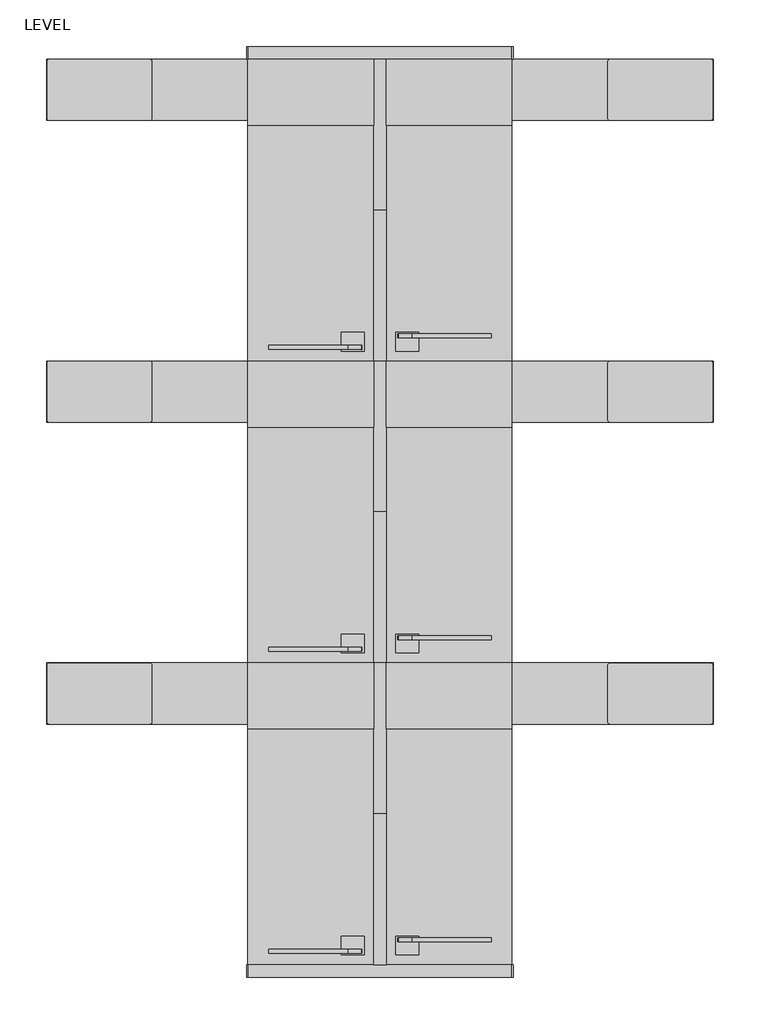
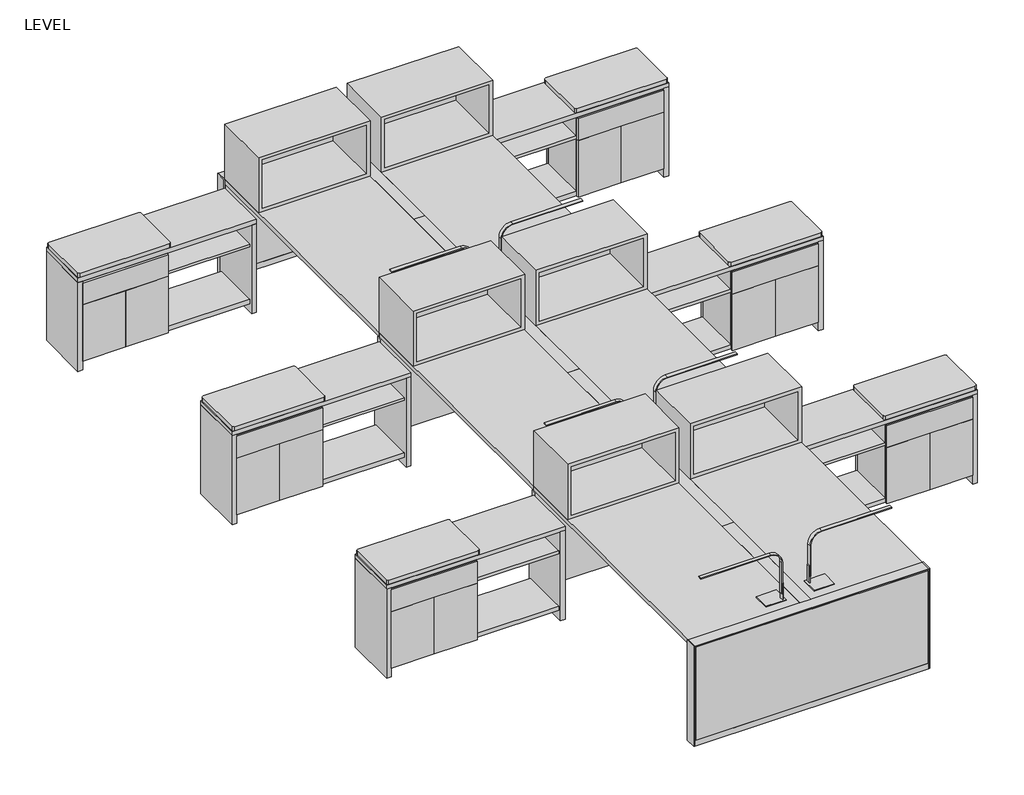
# One storey: 36 furniture elements, 6 light fixtures.
"""IFC4 building model written with IfcOpenShell, lengths in millimetres."""

from ifc_helpers import new_model, si_unit, origin, place, context, project, spatial, transform, mapped, element, save
from components import furniture_dfdae043, furniture_23c05358, furniture_9d0f7e14, furniture_301a0b17, furniture_bab812d2, furniture_e437c928, furniture_b5108ae6, haworth_compose_storage_overhead_ebce0026, haworth_compose_storage_overhead_1ba29520, furniture_2d942bea, furniture_74d3c8ed, haworth_worksurface_supports_end_end_panel_support_87966947, freestanding_pivot_89a99560

model = new_model("IFC4")

# Units and contexts
model_context = context("Model", 3, world=origin())
ifc_project = project(units=[si_unit("LENGTHUNIT", "METRE", prefix="MILLI")], contexts=[model_context])

# Site, building, storey
site = spatial("IfcSite", under=ifc_project)
building = spatial("IfcBuilding", under=site)
storey = spatial("IfcBuildingStorey", under=building, Name="LEVEL", Elevation=0.0)

# Furniture
placement = place(None, origin())
furniture_shape = furniture_dfdae043(model_context)
element("IfcFurniture", 1, ObjectType="Haworth_Compose-Panel-Benching : 36\" Width", at=placement, inside=storey, context=model_context, shape_type="MappedRepresentation", body=[
    mapped(furniture_shape, transform((10752.3830335, -40009.9395902, 0.0), x_axis=(0.0, -1.0, 0.0), y_axis=(1.0, 0.0, 0.0), z_axis=(0.0, 0.0, 1.0))),
])
element("IfcFurniture", 2, ObjectType="Haworth_Compose-Panel-Benching : 36\" Width", at=placement, inside=storey, context=model_context, shape_type="MappedRepresentation", body=[
    mapped(furniture_shape, transform((10752.3830335, -39095.5395902, 0.0), x_axis=(0.0, -1.0, 0.0), y_axis=(1.0, 0.0, 0.0), z_axis=(0.0, 0.0, 1.0))),
])
element("IfcFurniture", 3, ObjectType="Haworth_Compose-Panel-Benching : 36\" Width", at=placement, inside=storey, context=model_context, shape_type="MappedRepresentation", body=[
    mapped(furniture_shape, transform((10752.3830335, -38181.1395902, 0.0), x_axis=(0.0, -1.0, 0.0), y_axis=(1.0, 0.0, 0.0), z_axis=(0.0, 0.0, 1.0))),
])
element("IfcFurniture", 4, ObjectType="Haworth_Compose-Panel-Benching : 36\" Width", at=placement, inside=storey, context=model_context, shape_type="MappedRepresentation", body=[
    mapped(furniture_shape, transform((10752.3830335, -37266.7395902, 0.0), x_axis=(0.0, -1.0, 0.0), y_axis=(1.0, 0.0, 0.0), z_axis=(0.0, 0.0, 1.0))),
])
element("IfcFurniture", 5, ObjectType="Haworth_Compose-Panel-Benching : 36\" Width", at=placement, inside=storey, context=model_context, shape_type="MappedRepresentation", body=[
    mapped(furniture_shape, transform((10752.3830335, -36352.3395902, 0.0), x_axis=(0.0, -1.0, 0.0), y_axis=(1.0, 0.0, 0.0), z_axis=(0.0, 0.0, 1.0))),
])
element("IfcFurniture", 6, ObjectType="Haworth_Compose-Panel-Benching : 36\" Width", at=placement, inside=storey, context=model_context, shape_type="MappedRepresentation", body=[
    mapped(furniture_shape, transform((10752.3830335, -35437.9395902, 0.0), x_axis=(0.0, -1.0, 0.0), y_axis=(1.0, 0.0, 0.0), z_axis=(0.0, 0.0, 1.0))),
])
furniture_2_shape = furniture_23c05358(model_context)
element("IfcFurniture", 7, ObjectType="Haworth_XSeries-Active-Credenza : 48\" Width - Open Back", at=placement, inside=storey, context=model_context, shape_type="MappedRepresentation", body=[
    mapped(furniture_2_shape, transform((12162.0830335, -34983.1798803, 0.0), x_axis=(1.0000000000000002, 0.0, 0.0), y_axis=(0.0, 1.0000000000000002, 0.0), z_axis=(0.0, 0.0, 1.0))),
])
element("IfcFurniture", 8, ObjectType="Haworth_XSeries-Active-Credenza : 48\" Width - Open Back", at=placement, inside=storey, context=model_context, shape_type="MappedRepresentation", body=[
    mapped(furniture_2_shape, transform((12162.0830335, -36811.9798803, 0.0), x_axis=(1.0000000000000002, 0.0, 0.0), y_axis=(0.0, 1.0000000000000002, 0.0), z_axis=(0.0, 0.0, 1.0))),
])
element("IfcFurniture", 9, ObjectType="Haworth_XSeries-Active-Credenza : 48\" Width - Open Back", at=placement, inside=storey, context=model_context, shape_type="MappedRepresentation", body=[
    mapped(furniture_2_shape, transform((12162.0830335, -38640.7798803, 0.0), x_axis=(1.0000000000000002, 0.0, 0.0), y_axis=(0.0, 1.0000000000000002, 0.0), z_axis=(0.0, 0.0, 1.0))),
])
furniture_3_shape = furniture_9d0f7e14(model_context)
element("IfcFurniture", 10, ObjectType="Haworth_XSeries-Active-Credenza : 48\" Width - Open Back", at=placement, inside=storey, context=model_context, shape_type="MappedRepresentation", body=[
    mapped(furniture_3_shape, transform((9342.6830335, -34983.1798803, 0.0), x_axis=(-1.0000000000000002, 0.0, 0.0), y_axis=(0.0, -1.0000000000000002, 0.0), z_axis=(0.0, 0.0, 1.0))),
])
element("IfcFurniture", 11, ObjectType="Haworth_XSeries-Active-Credenza : 48\" Width - Open Back", at=placement, inside=storey, context=model_context, shape_type="MappedRepresentation", body=[
    mapped(furniture_3_shape, transform((9342.6830335, -36811.9798803, 0.0), x_axis=(-1.0000000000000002, 0.0, 0.0), y_axis=(0.0, -1.0000000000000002, 0.0), z_axis=(0.0, 0.0, 1.0))),
])
element("IfcFurniture", 12, ObjectType="Haworth_XSeries-Active-Credenza : 48\" Width - Open Back", at=placement, inside=storey, context=model_context, shape_type="MappedRepresentation", body=[
    mapped(furniture_3_shape, transform((9342.6830335, -38640.7798803, 0.0), x_axis=(-1.0000000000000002, 0.0, 0.0), y_axis=(0.0, -1.0000000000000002, 0.0), z_axis=(0.0, 0.0, 1.0))),
])
furniture_4_shape = furniture_301a0b17(model_context)
element("IfcFurniture", 13, ObjectType="Haworth_Compose-Panel-Benching : 63\" Width", at=placement, inside=storey, context=model_context, shape_type="MappedRepresentation", body=[
    mapped(furniture_4_shape, transform((10749.9427433, -40507.6798803, 0.0), x_axis=(1.0, 0.0, 0.0), y_axis=(0.0, 1.0, 0.0), z_axis=(0.0, 0.0, 1.0))),
])
furniture_5_shape = furniture_bab812d2(model_context)
element("IfcFurniture", 14, ObjectType="Haworth_Compose-Panel-Benching : 63\" Width", at=placement, inside=storey, context=model_context, shape_type="MappedRepresentation", body=[
    mapped(furniture_5_shape, transform((10749.9427433, -34945.0798803, 0.0), x_axis=(1.0, 0.0, 0.0), y_axis=(0.0, 1.0, 0.0), z_axis=(0.0, 0.0, 1.0))),
])
furniture_6_shape = furniture_e437c928(model_context)
element("IfcFurniture", 15, ObjectType="Haworth_Compose-Storage-Accessories-Cushion : 25\" x 14 1/2\"", at=placement, inside=storey, context=model_context, shape_type="MappedRepresentation", body=[
    mapped(furniture_6_shape, transform((9053.7580335, -38826.5173803, 0.0), x_axis=(1.0, 0.0, 0.0), y_axis=(0.0, 1.0, 0.0), z_axis=(0.0, 0.0, 1.0))),
])
element("IfcFurniture", 16, ObjectType="Haworth_Compose-Storage-Accessories-Cushion : 25\" x 14 1/2\"", at=placement, inside=storey, context=model_context, shape_type="MappedRepresentation", body=[
    mapped(furniture_6_shape, transform((9053.7580335, -36997.7173803, 0.0), x_axis=(1.0, 0.0, 0.0), y_axis=(0.0, 1.0, 0.0), z_axis=(0.0, 0.0, 1.0))),
])
element("IfcFurniture", 17, ObjectType="Haworth_Compose-Storage-Accessories-Cushion : 25\" x 14 1/2\"", at=placement, inside=storey, context=model_context, shape_type="MappedRepresentation", body=[
    mapped(furniture_6_shape, transform((9053.7580335, -35168.9173803, 0.0), x_axis=(1.0, 0.0, 0.0), y_axis=(0.0, 1.0, 0.0), z_axis=(0.0, 0.0, 1.0))),
])
furniture_7_shape = furniture_b5108ae6(model_context)
element("IfcFurniture", 18, ObjectType="Haworth_Compose-Storage-Accessories-Cushion : 25\" x 14 1/2\"", at=placement, inside=storey, context=model_context, shape_type="MappedRepresentation", body=[
    mapped(furniture_7_shape, transform((12451.0080335, -38826.5173803, 0.0), x_axis=(-1.0, 0.0, 0.0), y_axis=(0.0, -1.0, 0.0), z_axis=(0.0, 0.0, 1.0))),
])
element("IfcFurniture", 19, ObjectType="Haworth_Compose-Storage-Accessories-Cushion : 25\" x 14 1/2\"", at=placement, inside=storey, context=model_context, shape_type="MappedRepresentation", body=[
    mapped(furniture_7_shape, transform((12451.0080335, -36997.7173803, 0.0), x_axis=(-1.0, 0.0, 0.0), y_axis=(0.0, -1.0, 0.0), z_axis=(0.0, 0.0, 1.0))),
])
element("IfcFurniture", 20, ObjectType="Haworth_Compose-Storage-Accessories-Cushion : 25\" x 14 1/2\"", at=placement, inside=storey, context=model_context, shape_type="MappedRepresentation", body=[
    mapped(furniture_7_shape, transform((12451.0080335, -35168.9173803, 0.0), x_axis=(-1.0, 0.0, 0.0), y_axis=(0.0, -1.0, 0.0), z_axis=(0.0, 0.0, 1.0))),
])
haworth_compose_storage_overhead_shape = haworth_compose_storage_overhead_ebce0026(model_context)
element("IfcFurniture", 21, ObjectType="Haworth_Compose-Storage-Overhead : 30\" x 16\" x 16\" - No Door", at=placement, inside=storey, context=model_context, shape_type="MappedRepresentation", body=[
    mapped(haworth_compose_storage_overhead_shape, transform((10168.1830335, -38640.7798803, 0.0), x_axis=(1.0, 0.0, 0.0), y_axis=(0.0, 1.0, 0.0), z_axis=(0.0, 0.0, 1.0))),
])
element("IfcFurniture", 22, ObjectType="Haworth_Compose-Storage-Overhead : 30\" x 16\" x 16\" - No Door", at=placement, inside=storey, context=model_context, shape_type="MappedRepresentation", body=[
    mapped(haworth_compose_storage_overhead_shape, transform((10168.1830335, -36811.9798803, 0.0), x_axis=(1.0, 0.0, 0.0), y_axis=(0.0, 1.0, 0.0), z_axis=(0.0, 0.0, 1.0))),
])
element("IfcFurniture", 23, ObjectType="Haworth_Compose-Storage-Overhead : 30\" x 16\" x 16\" - No Door", at=placement, inside=storey, context=model_context, shape_type="MappedRepresentation", body=[
    mapped(haworth_compose_storage_overhead_shape, transform((10168.1830335, -34983.1798803, 0.0), x_axis=(1.0, 0.0, 0.0), y_axis=(0.0, 1.0, 0.0), z_axis=(0.0, 0.0, 1.0))),
])
haworth_compose_storage_overhead_2_shape = haworth_compose_storage_overhead_1ba29520(model_context)
element("IfcFurniture", 24, ObjectType="Haworth_Compose-Storage-Overhead : 30\" x 16\" x 16\" - No Door", at=placement, inside=storey, context=model_context, shape_type="MappedRepresentation", body=[
    mapped(haworth_compose_storage_overhead_2_shape, transform((11336.5830335, -38640.7798803, 0.0), x_axis=(-1.0, 0.0, 0.0), y_axis=(0.0, -1.0, 0.0), z_axis=(0.0, 0.0, 1.0))),
])
element("IfcFurniture", 25, ObjectType="Haworth_Compose-Storage-Overhead : 30\" x 16\" x 16\" - No Door", at=placement, inside=storey, context=model_context, shape_type="MappedRepresentation", body=[
    mapped(haworth_compose_storage_overhead_2_shape, transform((11336.5830335, -36811.9798803, 0.0), x_axis=(-1.0, 0.0, 0.0), y_axis=(0.0, -1.0, 0.0), z_axis=(0.0, 0.0, 1.0))),
])
element("IfcFurniture", 26, ObjectType="Haworth_Compose-Storage-Overhead : 30\" x 16\" x 16\" - No Door", at=placement, inside=storey, context=model_context, shape_type="MappedRepresentation", body=[
    mapped(haworth_compose_storage_overhead_2_shape, transform((11336.5830335, -34983.1798803, 0.0), x_axis=(-1.0, 0.0, 0.0), y_axis=(0.0, -1.0, 0.0), z_axis=(0.0, 0.0, 1.0))),
])
furniture_8_shape = furniture_2d942bea(model_context)
element("IfcFurniture", 27, ObjectType="Haworth_Worksurface-Rectangular : 72\" x 30\"", at=placement, inside=storey, context=model_context, shape_type="MappedRepresentation", body=[
    mapped(furniture_8_shape, transform((10333.2830335, -37726.3798803, 0.0), x_axis=(0.0, 1.0, 0.0), y_axis=(-1.0, 0.0, 0.0), z_axis=(0.0, 0.0, 1.0))),
])
element("IfcFurniture", 28, ObjectType="Haworth_Worksurface-Rectangular : 72\" x 30\"", at=placement, inside=storey, context=model_context, shape_type="MappedRepresentation", body=[
    mapped(furniture_8_shape, transform((10333.2830335, -35897.5798803, 0.0), x_axis=(0.0, 1.0, 0.0), y_axis=(-1.0, 0.0, 0.0), z_axis=(0.0, 0.0, 1.0))),
])
element("IfcFurniture", 29, ObjectType="Haworth_Worksurface-Rectangular : 72\" x 30\"", at=placement, inside=storey, context=model_context, shape_type="MappedRepresentation", body=[
    mapped(furniture_8_shape, transform((11171.4830335, -39555.1798803, 0.0), x_axis=(0.0, -1.0, 0.0), y_axis=(1.0, 0.0, 0.0), z_axis=(0.0, 0.0, 1.0))),
])
furniture_9_shape = furniture_74d3c8ed(model_context)
element("IfcFurniture", 30, ObjectType="Haworth_Worksurface-Rectangular : 72\" x 30\"", at=placement, inside=storey, context=model_context, shape_type="MappedRepresentation", body=[
    mapped(furniture_9_shape, transform((10333.2830335, -39555.1798803, 0.0), x_axis=(0.0, -1.0, 0.0), y_axis=(1.0, 0.0, 0.0), z_axis=(0.0, 0.0, 1.0))),
])
element("IfcFurniture", 31, ObjectType="Haworth_Worksurface-Rectangular : 72\" x 30\"", at=placement, inside=storey, context=model_context, shape_type="MappedRepresentation", body=[
    mapped(furniture_9_shape, transform((11171.4830335, -37726.3798803, 0.0), x_axis=(0.0, 1.0, 0.0), y_axis=(-1.0, 0.0, 0.0), z_axis=(0.0, 0.0, 1.0))),
])
element("IfcFurniture", 32, ObjectType="Haworth_Worksurface-Rectangular : 72\" x 30\"", at=placement, inside=storey, context=model_context, shape_type="MappedRepresentation", body=[
    mapped(furniture_9_shape, transform((11171.4830335, -35897.5798803, 0.0), x_axis=(0.0, 1.0, 0.0), y_axis=(-1.0, 0.0, 0.0), z_axis=(0.0, 0.0, 1.0))),
])
haworth_worksurface_supports_end_end_panel_support_shape = haworth_worksurface_supports_end_end_panel_support_87966947(model_context)
element("IfcFurniture", 33, ObjectType="Haworth_Worksurface-Supports-End : End Panel Support", at=placement, inside=storey, context=model_context, shape_type="MappedRepresentation", body=[
    mapped(haworth_worksurface_supports_end_end_panel_support_shape, transform((10533.03651, -38856.6798803, 0.0), x_axis=(0.0, 1.0, 0.0), y_axis=(-1.0, 0.0, 0.0), z_axis=(0.0, 0.0, 1.0))),
])
element("IfcFurniture", 34, ObjectType="Haworth_Worksurface-Supports-End : End Panel Support", at=placement, inside=storey, context=model_context, shape_type="MappedRepresentation", body=[
    mapped(haworth_worksurface_supports_end_end_panel_support_shape, transform((10971.7295569, -38424.8798803, 0.0), x_axis=(0.0, -1.0, 0.0), y_axis=(1.0, 0.0, 0.0), z_axis=(0.0, 0.0, 1.0))),
])
element("IfcFurniture", 35, ObjectType="Haworth_Worksurface-Supports-End : End Panel Support", at=placement, inside=storey, context=model_context, shape_type="MappedRepresentation", body=[
    mapped(haworth_worksurface_supports_end_end_panel_support_shape, transform((10971.7295569, -36596.0798803, 0.0), x_axis=(0.0, -1.0, 0.0), y_axis=(1.0, 0.0, 0.0), z_axis=(0.0, 0.0, 1.0))),
])
element("IfcFurniture", 36, ObjectType="Haworth_Worksurface-Supports-End : End Panel Support", at=placement, inside=storey, context=model_context, shape_type="MappedRepresentation", body=[
    mapped(haworth_worksurface_supports_end_end_panel_support_shape, transform((10533.03651, -37027.8798803, 0.0), x_axis=(0.0, 1.0, 0.0), y_axis=(-1.0, 0.0, 0.0), z_axis=(0.0, 0.0, 1.0))),
])

# Light fixtures
freestanding_pivot_shape = freestanding_pivot_89a99560(model_context)
element("IfcLightFixture", 37, ObjectType="Haworth_Lighting-LIM : Freestanding Pivot", at=placement, inside=storey, context=model_context, shape_type="MappedRepresentation", body=[
    mapped(freestanding_pivot_shape, transform((10896.1116636, -38264.1266718, 0.0), x_axis=(-1.0, 0.0, 0.0), y_axis=(0.0, -1.0, 0.0), z_axis=(0.0, 0.0, 1.0))),
])
element("IfcLightFixture", 38, ObjectType="Haworth_Lighting-LIM : Freestanding Pivot", at=placement, inside=storey, context=model_context, shape_type="MappedRepresentation", body=[
    mapped(freestanding_pivot_shape, transform((10896.1116636, -36435.3266718, 0.0), x_axis=(-1.0, 0.0, 0.0), y_axis=(0.0, -1.0, 0.0), z_axis=(0.0, 0.0, 1.0))),
])
element("IfcLightFixture", 39, ObjectType="Haworth_Lighting-LIM : Freestanding Pivot", at=placement, inside=storey, context=model_context, shape_type="MappedRepresentation", body=[
    mapped(freestanding_pivot_shape, transform((10608.6544034, -38782.4830888, 0.0), x_axis=(1.0, 0.0, 0.0), y_axis=(0.0, 1.0, 0.0), z_axis=(0.0, 0.0, 1.0))),
])
element("IfcLightFixture", 40, ObjectType="Haworth_Lighting-LIM : Freestanding Pivot", at=placement, inside=storey, context=model_context, shape_type="MappedRepresentation", body=[
    mapped(freestanding_pivot_shape, transform((10608.6544034, -36953.6830888, 0.0), x_axis=(1.0, 0.0, 0.0), y_axis=(0.0, 1.0, 0.0), z_axis=(0.0, 0.0, 1.0))),
])
element("IfcLightFixture", 41, ObjectType="Haworth_Lighting-LIM : Freestanding Pivot", at=placement, inside=storey, context=model_context, shape_type="MappedRepresentation", body=[
    mapped(freestanding_pivot_shape, transform((10896.1116636, -40092.9266718, 0.0), x_axis=(-1.0, 0.0, 0.0), y_axis=(0.0, -1.0, 0.0), z_axis=(0.0, 0.0, 1.0))),
])
element("IfcLightFixture", 42, ObjectType="Haworth_Lighting-LIM : Freestanding Pivot", at=placement, inside=storey, context=model_context, shape_type="MappedRepresentation", body=[
    mapped(freestanding_pivot_shape, transform((10608.6544034, -40611.2830888, 0.0), x_axis=(1.0, 0.0, 0.0), y_axis=(0.0, 1.0, 0.0), z_axis=(0.0, 0.0, 1.0))),
])

save(model, "model.ifc")
